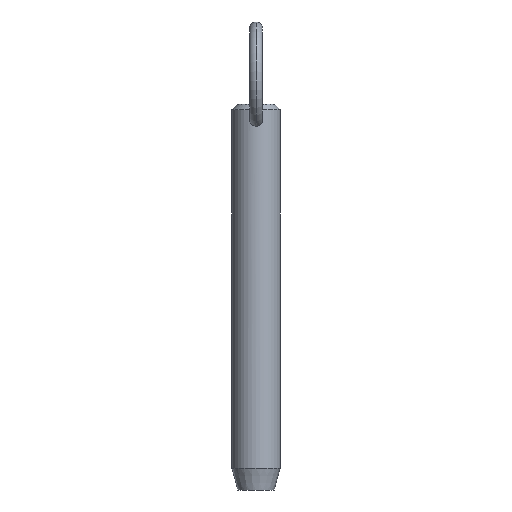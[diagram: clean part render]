
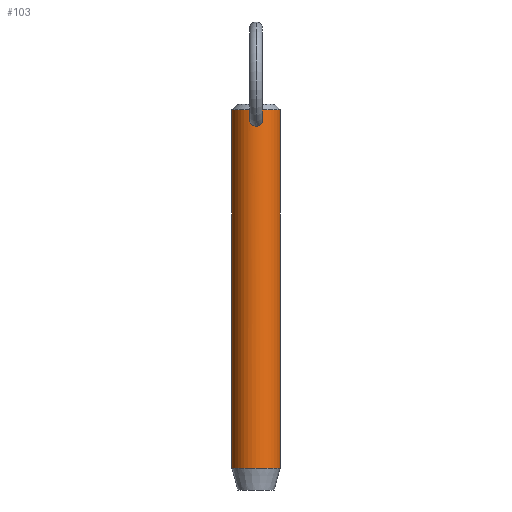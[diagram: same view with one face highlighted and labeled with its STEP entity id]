
A CAD part, front view. The second image highlights one B-rep face of the part: STEP entity #103.
In plain terms, the highlighted cylindrical face has radius 5.55 mm (diameter 11.1 mm), a partial arc.
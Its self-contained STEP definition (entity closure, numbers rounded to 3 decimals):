
#1 = CARTESIAN_POINT ( 'NONE',  ( 1.486, -5.347, 71.774 ) ) ;
#12 = FACE_OUTER_BOUND ( 'NONE', #365, .T. ) ;
#19 = CARTESIAN_POINT ( 'NONE',  ( 5.55, 0., 73.65 ) ) ;
#27 = CARTESIAN_POINT ( 'NONE',  ( -1.054, -5.449, 70.304 ) ) ;
#28 = AXIS2_PLACEMENT_3D ( 'NONE', #251, #124, #525 ) ;
#29 = CARTESIAN_POINT ( 'NONE',  ( 0.941, -5.471, 72.907 ) ) ;
#30 = CARTESIAN_POINT ( 'NONE',  ( -1.477, -5.35, 71.142 ) ) ;
#33 = CARTESIAN_POINT ( 'NONE',  ( -1.294, -5.398, 72.386 ) ) ;
#34 = ORIENTED_EDGE ( 'NONE', *, *, #337, .T. ) ;
#36 = AXIS2_PLACEMENT_3D ( 'NONE', #380, #350, #189 ) ;
#39 = CARTESIAN_POINT ( 'NONE',  ( 0.421, -5.535, 69.932 ) ) ;
#59 = CARTESIAN_POINT ( 'NONE',  ( -1.362, -5.381, 70.732 ) ) ;
#63 = DIRECTION ( 'NONE',  ( 0., 0., 1. ) ) ;
#64 = ORIENTED_EDGE ( 'NONE', *, *, #397, .T. ) ;
#69 = VERTEX_POINT ( 'NONE', #354 ) ;
#72 = CARTESIAN_POINT ( 'NONE',  ( -1.44, -5.36, 71.987 ) ) ;
#73 = CARTESIAN_POINT ( 'NONE',  ( -0.785, -5.497, 73.058 ) ) ;
#75 = CARTESIAN_POINT ( 'NONE',  ( 1.26, -5.407, 70.543 ) ) ;
#76 = EDGE_CURVE ( 'NONE', #448, #487, #208, .T. ) ;
#78 = CARTESIAN_POINT ( 'NONE',  ( 0., -5.55, 69.877 ) ) ;
#95 = CARTESIAN_POINT ( 'NONE',  ( -5.55, 0., -9.2 ) ) ;
#103 = ADVANCED_FACE ( 'NONE', ( #12, #219 ), #455, .T. ) ;
#105 = CARTESIAN_POINT ( 'NONE',  ( -0.107, -5.55, 69.877 ) ) ;
#111 = CARTESIAN_POINT ( 'NONE',  ( 1.194, -5.422, 72.571 ) ) ;
#118 = LINE ( 'NONE', #387, #452 ) ;
#121 = CARTESIAN_POINT ( 'NONE',  ( -1.503, -5.343, 71.459 ) ) ;
#124 = DIRECTION ( 'NONE',  ( 0., 0., -1. ) ) ;
#125 = CARTESIAN_POINT ( 'NONE',  ( -1.5, -5.343, 71.353 ) ) ;
#129 = CARTESIAN_POINT ( 'NONE',  ( 0.807, -5.492, 70.106 ) ) ;
#130 = ORIENTED_EDGE ( 'NONE', *, *, #453, .T. ) ;
#134 = CARTESIAN_POINT ( 'NONE',  ( 1.477, -5.35, 71.144 ) ) ;
#137 = CARTESIAN_POINT ( 'NONE',  ( 1.455, -5.356, 71.038 ) ) ;
#147 = DIRECTION ( 'NONE',  ( 0., 0., -1. ) ) ;
#159 = CARTESIAN_POINT ( 'NONE',  ( 1.295, -5.397, 72.382 ) ) ;
#166 = VECTOR ( 'NONE', #308, 1000. ) ;
#170 = CARTESIAN_POINT ( 'NONE',  ( 1.055, -5.449, 70.305 ) ) ;
#172 = B_SPLINE_CURVE_WITH_KNOTS ( 'NONE', 3,
 ( #446, #479, #240, #513, #278, #360, #29, #111, #159, #395, #1, #411, #405, #134, #137, #257, #75, #170, #371, #129, #175, #297, #39, #341, #335, #78 ),
 .UNSPECIFIED., .F., .F.,
 ( 4, 2, 2, 2, 2, 2, 2, 2, 2, 2, 2, 2, 4 ),
 ( 0.005, 0.005, 0.005, 0.006, 0.006, 0.007, 0.007, 0.008, 0.008, 0.009, 0.009, 0.009, 0.01 ),
 .UNSPECIFIED. ) ;
#173 = ORIENTED_EDGE ( 'NONE', *, *, #355, .F. ) ;
#175 = CARTESIAN_POINT ( 'NONE',  ( 0.716, -5.504, 70.052 ) ) ;
#189 = DIRECTION ( 'NONE',  ( 1., 0., 0. ) ) ;
#195 = CARTESIAN_POINT ( 'NONE',  ( -0.42, -5.535, 69.932 ) ) ;
#208 = B_SPLINE_CURVE_WITH_KNOTS ( 'NONE', 3,
 ( #271, #105, #317, #195, #472, #231, #510, #438, #27, #320, #59, #516, #30, #125, #121, #522, #72, #33, #520, #485, #73, #447, #291, #407, #294, #408 ),
 .UNSPECIFIED., .F., .F.,
 ( 4, 2, 2, 2, 2, 2, 2, 2, 2, 2, 2, 2, 4 ),
 ( 0.01, 0.01, 0.01, 0.011, 0.011, 0.012, 0.012, 0.012, 0.013, 0.013, 0.014, 0.014, 0.015 ),
 .UNSPECIFIED. ) ;
#219 = FACE_BOUND ( 'NONE', #316, .T. ) ;
#231 = CARTESIAN_POINT ( 'NONE',  ( -0.716, -5.504, 70.052 ) ) ;
#235 = ORIENTED_EDGE ( 'NONE', *, *, #76, .T. ) ;
#240 = CARTESIAN_POINT ( 'NONE',  ( 0.214, -5.547, 73.328 ) ) ;
#251 = CARTESIAN_POINT ( 'NONE',  ( 0., 0., 68.6 ) ) ;
#257 = CARTESIAN_POINT ( 'NONE',  ( 1.363, -5.38, 70.734 ) ) ;
#271 = CARTESIAN_POINT ( 'NONE',  ( 0., -5.55, 69.877 ) ) ;
#278 = CARTESIAN_POINT ( 'NONE',  ( 0.515, -5.527, 73.222 ) ) ;
#291 = CARTESIAN_POINT ( 'NONE',  ( -0.416, -5.535, 73.267 ) ) ;
#294 = CARTESIAN_POINT ( 'NONE',  ( -0.106, -5.55, 73.345 ) ) ;
#297 = CARTESIAN_POINT ( 'NONE',  ( 0.523, -5.526, 69.966 ) ) ;
#307 = ORIENTED_EDGE ( 'NONE', *, *, #377, .T. ) ;
#308 = DIRECTION ( 'NONE',  ( 0., 0., -1. ) ) ;
#312 = CARTESIAN_POINT ( 'NONE',  ( 0., -5.55, 69.877 ) ) ;
#316 = EDGE_LOOP ( 'NONE', ( #64, #235 ) ) ;
#317 = CARTESIAN_POINT ( 'NONE',  ( -0.212, -5.547, 69.888 ) ) ;
#319 = LINE ( 'NONE', #348, #166 ) ;
#320 = CARTESIAN_POINT ( 'NONE',  ( -1.26, -5.407, 70.542 ) ) ;
#335 = CARTESIAN_POINT ( 'NONE',  ( 0.107, -5.55, 69.877 ) ) ;
#337 = EDGE_CURVE ( 'NONE', #69, #518, #319, .T. ) ;
#341 = CARTESIAN_POINT ( 'NONE',  ( 0.213, -5.547, 69.888 ) ) ;
#346 = CARTESIAN_POINT ( 'NONE',  ( 0., -5.55, 73.345 ) ) ;
#348 = CARTESIAN_POINT ( 'NONE',  ( -5.55, 0., 68.6 ) ) ;
#350 = DIRECTION ( 'NONE',  ( 0., 0., -1. ) ) ;
#354 = CARTESIAN_POINT ( 'NONE',  ( -5.55, 0., 73.65 ) ) ;
#355 = EDGE_CURVE ( 'NONE', #494, #358, #118, .T. ) ;
#358 = VERTEX_POINT ( 'NONE', #431 ) ;
#360 = CARTESIAN_POINT ( 'NONE',  ( 0.786, -5.497, 73.057 ) ) ;
#365 = EDGE_LOOP ( 'NONE', ( #173, #130, #34, #307 ) ) ;
#371 = CARTESIAN_POINT ( 'NONE',  ( 0.977, -5.464, 70.232 ) ) ;
#375 = CIRCLE ( 'NONE', #36, 5.55 ) ;
#377 = EDGE_CURVE ( 'NONE', #518, #358, #390, .T. ) ;
#380 = CARTESIAN_POINT ( 'NONE',  ( 0., 0., 73.65 ) ) ;
#387 = CARTESIAN_POINT ( 'NONE',  ( 5.55, 0., 68.6 ) ) ;
#390 = CIRCLE ( 'NONE', #409, 5.55 ) ;
#395 = CARTESIAN_POINT ( 'NONE',  ( 1.44, -5.36, 71.986 ) ) ;
#397 = EDGE_CURVE ( 'NONE', #487, #448, #172, .T. ) ;
#405 = CARTESIAN_POINT ( 'NONE',  ( 1.5, -5.343, 71.354 ) ) ;
#407 = CARTESIAN_POINT ( 'NONE',  ( -0.211, -5.547, 73.329 ) ) ;
#408 = CARTESIAN_POINT ( 'NONE',  ( 0., -5.55, 73.345 ) ) ;
#409 = AXIS2_PLACEMENT_3D ( 'NONE', #484, #63, #519 ) ;
#411 = CARTESIAN_POINT ( 'NONE',  ( 1.503, -5.343, 71.459 ) ) ;
#431 = CARTESIAN_POINT ( 'NONE',  ( 5.55, 0., -9.2 ) ) ;
#438 = CARTESIAN_POINT ( 'NONE',  ( -0.976, -5.464, 70.231 ) ) ;
#446 = CARTESIAN_POINT ( 'NONE',  ( 0., -5.55, 73.345 ) ) ;
#447 = CARTESIAN_POINT ( 'NONE',  ( -0.513, -5.527, 73.223 ) ) ;
#448 = VERTEX_POINT ( 'NONE', #312 ) ;
#452 = VECTOR ( 'NONE', #147, 1000. ) ;
#453 = EDGE_CURVE ( 'NONE', #494, #69, #375, .T. ) ;
#455 = CYLINDRICAL_SURFACE ( 'NONE', #28, 5.55 ) ;
#472 = CARTESIAN_POINT ( 'NONE',  ( -0.523, -5.526, 69.966 ) ) ;
#479 = CARTESIAN_POINT ( 'NONE',  ( 0.106, -5.55, 73.345 ) ) ;
#484 = CARTESIAN_POINT ( 'NONE',  ( 0., 0., -9.2 ) ) ;
#485 = CARTESIAN_POINT ( 'NONE',  ( -0.939, -5.472, 72.91 ) ) ;
#487 = VERTEX_POINT ( 'NONE', #346 ) ;
#494 = VERTEX_POINT ( 'NONE', #19 ) ;
#510 = CARTESIAN_POINT ( 'NONE',  ( -0.807, -5.492, 70.105 ) ) ;
#513 = CARTESIAN_POINT ( 'NONE',  ( 0.417, -5.535, 73.267 ) ) ;
#516 = CARTESIAN_POINT ( 'NONE',  ( -1.455, -5.356, 71.036 ) ) ;
#518 = VERTEX_POINT ( 'NONE', #95 ) ;
#519 = DIRECTION ( 'NONE',  ( -1., 0., 0. ) ) ;
#520 = CARTESIAN_POINT ( 'NONE',  ( -1.195, -5.421, 72.571 ) ) ;
#522 = CARTESIAN_POINT ( 'NONE',  ( -1.485, -5.348, 71.779 ) ) ;
#525 = DIRECTION ( 'NONE',  ( -1., 0., 0. ) ) ;
